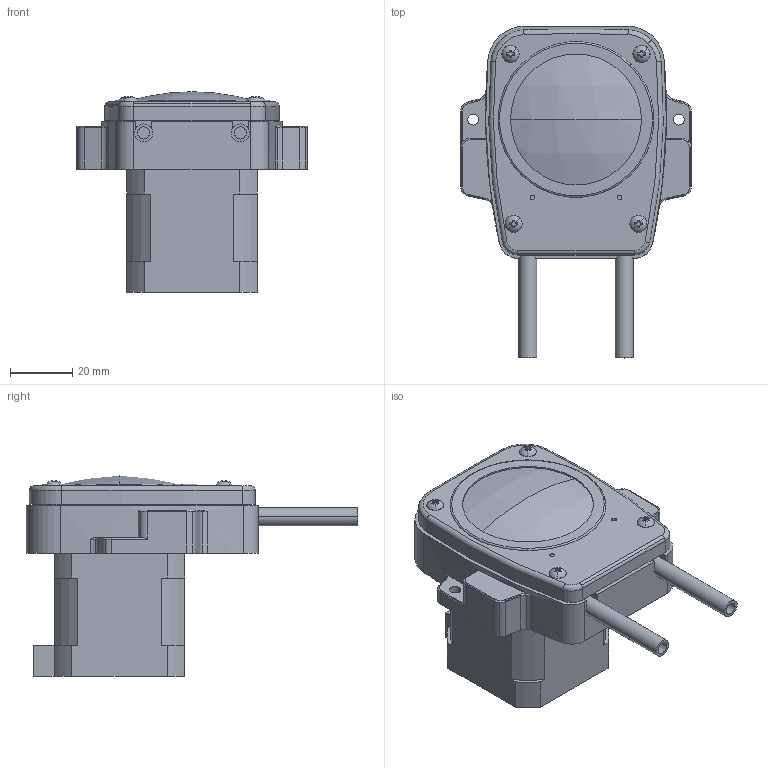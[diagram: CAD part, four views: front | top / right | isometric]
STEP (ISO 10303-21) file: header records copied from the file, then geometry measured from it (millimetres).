
FILE_DESCRIPTION (( 'STEP AP214' ), '1' );
FILE_NAME ('RP-M_ステッピングモータ仕様_Assy-forWeb.STEP', '2025-02-19T04:46:31', ( '' ), ( '' ), 'SwSTEP 2.0', 'SolidWorks 2024', '' );
FILE_SCHEMA (( 'AUTOMOTIVE_DESIGN' ));
Length unit declared in the file: millimetre
Products named in the file (11): Stepping motor; M3x6 セムス SCREW; PMSA-B42D2_3D; ベース_AR-BA08A-1-forWeb; RP-M_ステッピングモータ仕様_Assy-forWeb; M2.6x10_トラスタッピンねじ_SUS; AR-BL63_モーター取付板（M); M3x8_Pタイト_ラミメイト; カバー_AR-FU09-1; S6B-PH-K-S; チューブ - forWeb
Assembly tree (19 placements, depth 3):
  RP-M_ステッピングモータ仕様_Assy-forWeb
    ベース_AR-BA08A-1-forWeb
    カバー_AR-FU09-1
    チューブ - forWeb
    M2.6x10_トラスタッピンねじ_SUS  x4
    M3x8_Pタイト_ラミメイト  x4
    AR-BL63_モーター取付板（M)
    Stepping motor
      PMSA-B42D2_3D
      S6B-PH-K-S
    M3x6 セムス SCREW  x4
Bounding box: 74 x 106.5 x 64.3 mm (x, y, z)
Volume: 156243.8 mm3; surface area: 51846.8 mm2
Topology: 23 solids, 26 shells, 1006 faces, 2609 edges, 1704 vertices
Faces by surface type: plane 451, cylinder 450, torus 54, cone 27, sphere 24
Entity records: 25252 total; most frequent: CARTESIAN_POINT 4265, DIRECTION 3870, ORIENTED_EDGE 3538, EDGE_CURVE 1769, AXIS2_PLACEMENT_3D 1471, VERTEX_POINT 1152, LINE 928, VECTOR 928
